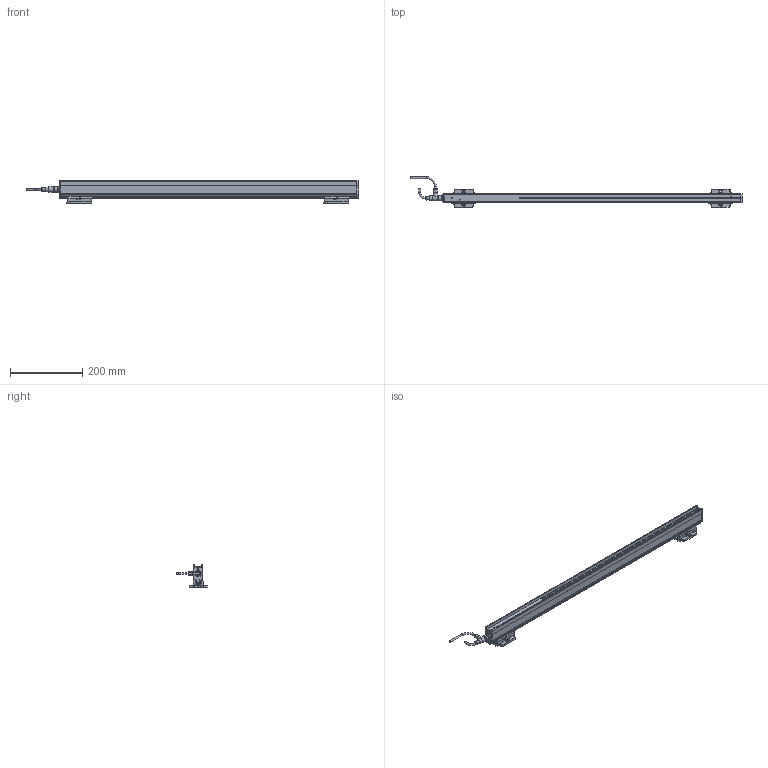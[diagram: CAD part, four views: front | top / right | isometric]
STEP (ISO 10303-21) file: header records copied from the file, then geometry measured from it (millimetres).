
FILE_DESCRIPTION(('Bauteilbeschreibung','HiCAD-Model','HiCAD-STEP-TRANSLATION','Bauteilbeschreibung'),'2;1');
FILE_NAME('PERFORMAXIQEASY_750-840_3D.STP','2014-03-05T11:28:34+00:00',('Konstrukteur'),('Konstrukteur Firma GmbH'),' HiCAD 2011, Step 1600.0 ','HiCAD 2011','confidential');
FILE_SCHEMA(('AUTOMOTIVE_DESIGN { 1 2 10303 214 0 1 1 1 }'));
Products named in the file (38): PERFORMAXIQEASY_750_840_3D; A_PERFORMAX IQ EASY 750_840; A_PERFORMAX IQ EASY SPEED; A_CAP DE; A_CAP CE_5; GROUP; PIN; GROUP0; PIN0; LED_2C_3MM; LED02C03MM; A519020315_CONNECTOR APPLIANCE; A_INSERT; A_CONTACTS; A_HOUSING; A_PROFILE; A_POTTING; A532000100_BRACKET BARS_ MOUNT; A_SIDE PIECE; A0SIDE0PIECE; A_BRACKET SMALL; A_SLIDE PIECE; A5320001000BRACKET0BARS00MOUNT; A0SIDE0PIECE0; A0SIDE0PIECE1; A0BRACKET0SMALL; A0SLIDE0PIECE; A_CONNECTOR STRAIGHT; EXTRUDED SOLID_0; DRAAD GEBOGEN; REVOLVED SOLID_1; REVOLVED SOLID_3; A_CONNECTOR ANGLED; REVOLVED0SOLID01; EXTRUDED0SOLID00; C_EDGE SWEEP_0; REVOLVED SOLID_2; REVOLVED0SOLID03
Assembly tree (37 placements, depth 5):
  PERFORMAXIQEASY_750_840_3D
    A_PERFORMAX IQ EASY 750_840
      A_PERFORMAX IQ EASY SPEED
        A_CAP DE
        A_CAP CE_5
        GROUP
          PIN
        GROUP0
          PIN0
        LED_2C_3MM
        LED02C03MM
        A519020315_CONNECTOR APPLIANCE
          A_INSERT
          A_CONTACTS
          A_HOUSING
        A_PROFILE
        A_POTTING
      A532000100_BRACKET BARS_ MOUNT
        A_SIDE PIECE
        A0SIDE0PIECE
        A_BRACKET SMALL
        A_SLIDE PIECE
      A5320001000BRACKET0BARS00MOUNT
        A0SIDE0PIECE0
        A0SIDE0PIECE1
        A0BRACKET0SMALL
        A0SLIDE0PIECE
      A_CONNECTOR STRAIGHT
        EXTRUDED SOLID_0
        DRAAD GEBOGEN
        REVOLVED SOLID_1
        REVOLVED SOLID_3
      A_CONNECTOR ANGLED
        REVOLVED0SOLID01
        EXTRUDED0SOLID00
        C_EDGE SWEEP_0
        REVOLVED SOLID_2
        REVOLVED0SOLID03
Bounding box: 917.89 x 84.28 x 63.13 mm (x, y, z)
Volume: 881911.6 mm3; surface area: 235915.5 mm2
Topology: 33 solids, 33 shells, 1911 faces, 4879 edges, 2932 vertices
Faces by surface type: cylinder 777, plane 751, sphere 112, torus 111, bspline 88, cone 72
Full cylindrical faces by diameter (mm): 0.8 x10, 1 x5, 2.387 x4, 3 x11, 3.1 x1, 4.2 x2, 5 x4, 5.5 x10, 8 x2, 8.2 x1, 8.4 x2, 8.945 x1, 9 x2, 10.2 x1, 10.5 x3, 11 x1, 12 x3, 12.8 x1, 13.8 x4, 14.5 x3
Entity records: 87383 total; most frequent: CARTESIAN_POINT 19760, DIRECTION 9521, ORIENTED_EDGE 9176, EDGE_CURVE 4588, COLOUR_RGB 4377, PRESENTATION_STYLE_ASSIGNMENT 4377, OVER_RIDING_STYLED_ITEM 4349, CURVE_STYLE 4344
